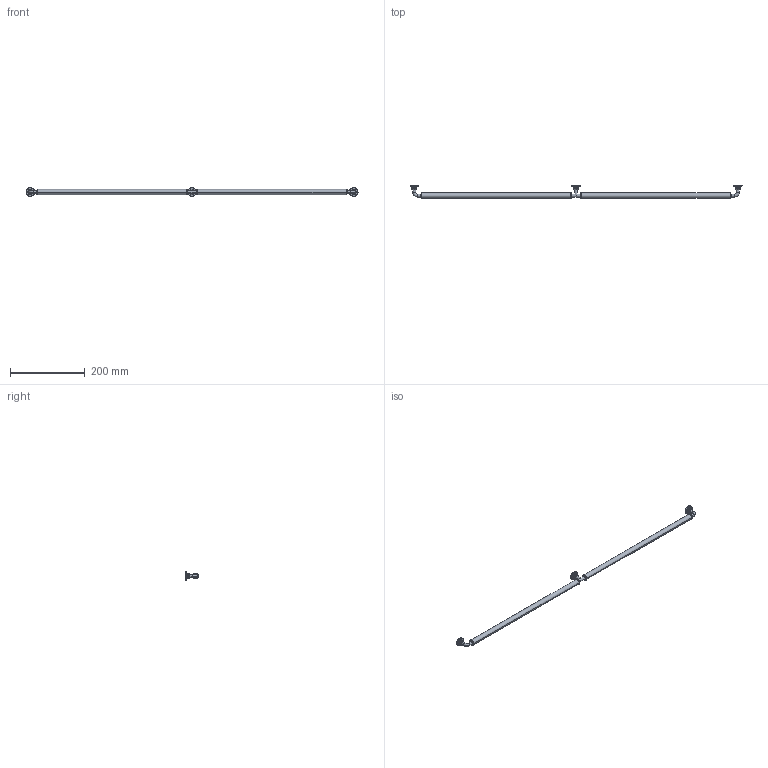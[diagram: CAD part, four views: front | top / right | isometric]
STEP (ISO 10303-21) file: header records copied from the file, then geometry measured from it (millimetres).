
FILE_DESCRIPTION( ( '' ), '1' );
FILE_NAME( 'D:/1.AUTOCAD EXPORT/Group 10/sheet_10_1/9132279.stp', '2013-10-21T06:42:01', ( '' ), ( '' ), ' ', ' ', ' ' );
FILE_SCHEMA( ( 'automotive_design' ) );
Length unit declared in the file: millimetre
Products named in the file (1): 1
Bounding box: 888 x 35 x 23 mm (x, y, z)
Volume: 136336.4 mm3; surface area: 42958.4 mm2
Topology: 1 solids, 1 shells, 138 faces, 329 edges, 199 vertices
Faces by surface type: torus 62, cone 36, cylinder 28, plane 12
Entity records: 7923 total; most frequent: DIRECTION 863, CARTESIAN_POINT 745, STYLED_ITEM 667, PRESENTATION_STYLE_ASSIGNMENT 667, COLOUR_RGB 667, ORIENTED_EDGE 658, AXIS2_PLACEMENT_3D 399, EDGE_CURVE 329
